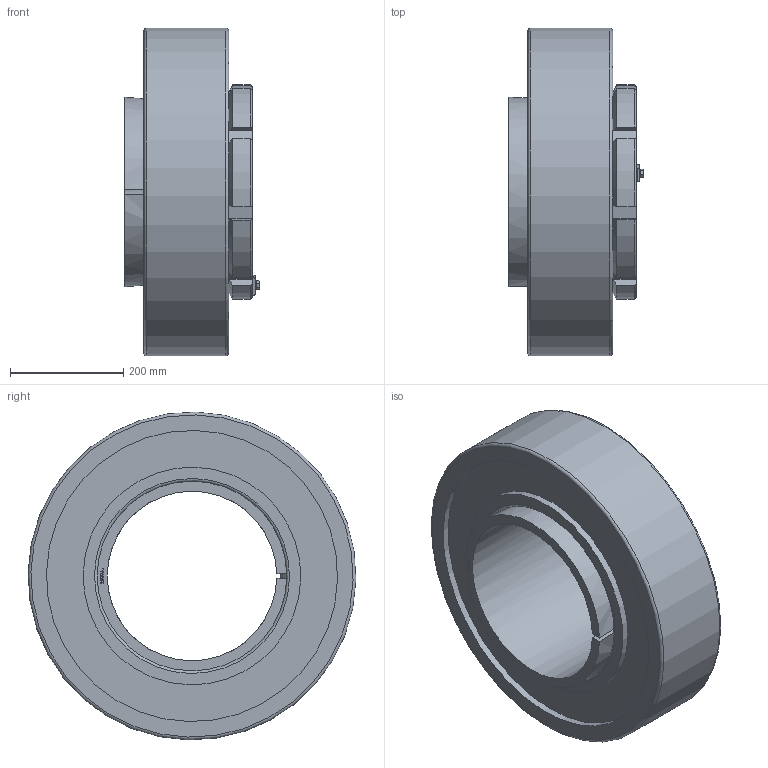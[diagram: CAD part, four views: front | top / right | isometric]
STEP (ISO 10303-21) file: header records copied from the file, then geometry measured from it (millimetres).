
FILE_DESCRIPTION( ( 'STEP AP203' ), ' ' );
FILE_NAME( 'p:/temp/worker_327/1628_4872/app_89_02016102820134572106099192d056f_000000_00_00_000000/format_0/BGL H 3164 TL+22264K.stp', '2016-10-28T18:13:48', ( '' ), ( '' ), ' ', 'PARTsolutions', ' ' );
FILE_SCHEMA( ( 'CONFIG_CONTROL_DESIGN' ) );
Length unit declared in the file: millimetre
Products named in the file (6): BGL H 3164 TL+22264K; _BGLH3164TLB; _BGL HM 3064; _BGLH3164TL+H-22264K; _BGL MS 3064-BGL MS 3068part; _BGL MS 3064-BGL MS 3068HHS
Assembly tree (5 placements, depth 2):
  BGL H 3164 TL+22264K
    _BGLH3164TLB
    _BGL HM 3064
    _BGLH3164TL+H-22264K
    _BGL MS 3064-BGL MS 3068part
    _BGL MS 3064-BGL MS 3068HHS
Bounding box: 238.05 x 579.8 x 579.8 mm (x, y, z)
Volume: 28760990.7 mm3; surface area: 1479662.3 mm2
Topology: 5 solids, 5 shells, 351 faces, 899 edges, 589 vertices
Faces by surface type: plane 230, cylinder 79, cone 38, torus 4
Full cylindrical faces by diameter (mm): 8 x9, 9 x1, 14.8 x1, 315 x1, 385 x2, 515 x2, 580 x1
Entity records: 10762 total; most frequent: CARTESIAN_POINT 2104, DIRECTION 1729, ORIENTED_EDGE 1726, EDGE_CURVE 863, VERTEX_POINT 586, AXIS2_PLACEMENT_3D 577, LINE 575, VECTOR 575
